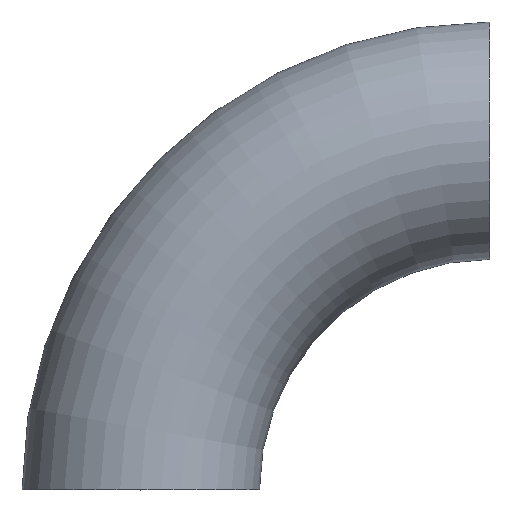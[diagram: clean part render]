
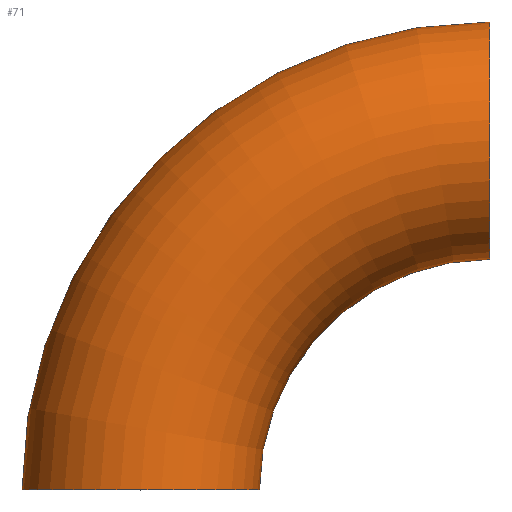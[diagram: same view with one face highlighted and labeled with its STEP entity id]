
A CAD part, top view. The second image highlights one B-rep face of the part: STEP entity #71.
In plain terms, the highlighted toroidal (fillet/blend) face has major radius 450 mm and minor radius 153 mm.
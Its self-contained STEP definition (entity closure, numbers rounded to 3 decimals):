
#1 = DIRECTION ( 'NONE',  ( 1., 0., 0. ) ) ;
#3 = CARTESIAN_POINT ( 'NONE',  ( 450., 0., 0. ) ) ;
#11 = VERTEX_POINT ( 'NONE', #189 ) ;
#15 = CARTESIAN_POINT ( 'NONE',  ( 450., 450., 0. ) ) ;
#17 = CIRCLE ( 'NONE', #52, 153. ) ;
#19 = CARTESIAN_POINT ( 'NONE',  ( 450., 0., 0. ) ) ;
#20 = DIRECTION ( 'NONE',  ( 1., 0., 0. ) ) ;
#32 = ORIENTED_EDGE ( 'NONE', *, *, #61, .F. ) ;
#41 = DIRECTION ( 'NONE',  ( 1., 0., 0. ) ) ;
#43 = DIRECTION ( 'NONE',  ( 0., 0., 1. ) ) ;
#52 = AXIS2_PLACEMENT_3D ( 'NONE', #15, #41, #186 ) ;
#60 = DIRECTION ( 'NONE',  ( 0., 0., 1. ) ) ;
#61 = EDGE_CURVE ( 'NONE', #11, #145, #17, .T. ) ;
#64 = DIRECTION ( 'NONE',  ( 0., 1., 0. ) ) ;
#66 = DIRECTION ( 'NONE',  ( 0., 0., 1. ) ) ;
#67 = VERTEX_POINT ( 'NONE', #224 ) ;
#70 = EDGE_CURVE ( 'NONE', #11, #67, #235, .T. ) ;
#71 = ADVANCED_FACE ( 'NONE', ( #139 ), #111, .T. ) ;
#92 = AXIS2_PLACEMENT_3D ( 'NONE', #19, #191, #20 ) ;
#96 = EDGE_CURVE ( 'NONE', #145, #104, #218, .T. ) ;
#102 = AXIS2_PLACEMENT_3D ( 'NONE', #147, #64, #43 ) ;
#103 = CARTESIAN_POINT ( 'NONE',  ( 450., 297., 0. ) ) ;
#104 = VERTEX_POINT ( 'NONE', #209 ) ;
#111 = TOROIDAL_SURFACE ( 'NONE', #152, 450., 153. ) ;
#120 = ORIENTED_EDGE ( 'NONE', *, *, #70, .T. ) ;
#122 = EDGE_CURVE ( 'NONE', #67, #104, #250, .T. ) ;
#134 = AXIS2_PLACEMENT_3D ( 'NONE', #3, #66, #206 ) ;
#139 = FACE_OUTER_BOUND ( 'NONE', #149, .T. ) ;
#145 = VERTEX_POINT ( 'NONE', #103 ) ;
#147 = CARTESIAN_POINT ( 'NONE',  ( 0., 0., 0. ) ) ;
#149 = EDGE_LOOP ( 'NONE', ( #32, #120, #214, #243 ) ) ;
#152 = AXIS2_PLACEMENT_3D ( 'NONE', #203, #60, #1 ) ;
#186 = DIRECTION ( 'NONE',  ( 0., 0., 1. ) ) ;
#189 = CARTESIAN_POINT ( 'NONE',  ( 450., 603., 0. ) ) ;
#191 = DIRECTION ( 'NONE',  ( 0., 0., 1. ) ) ;
#203 = CARTESIAN_POINT ( 'NONE',  ( 450., 0., 0. ) ) ;
#206 = DIRECTION ( 'NONE',  ( 1., 0., 0. ) ) ;
#209 = CARTESIAN_POINT ( 'NONE',  ( 153., 0., 0. ) ) ;
#214 = ORIENTED_EDGE ( 'NONE', *, *, #122, .T. ) ;
#218 = CIRCLE ( 'NONE', #134, 297. ) ;
#224 = CARTESIAN_POINT ( 'NONE',  ( -153., 0., 0. ) ) ;
#235 = CIRCLE ( 'NONE', #92, 603. ) ;
#243 = ORIENTED_EDGE ( 'NONE', *, *, #96, .F. ) ;
#250 = CIRCLE ( 'NONE', #102, 153. ) ;
